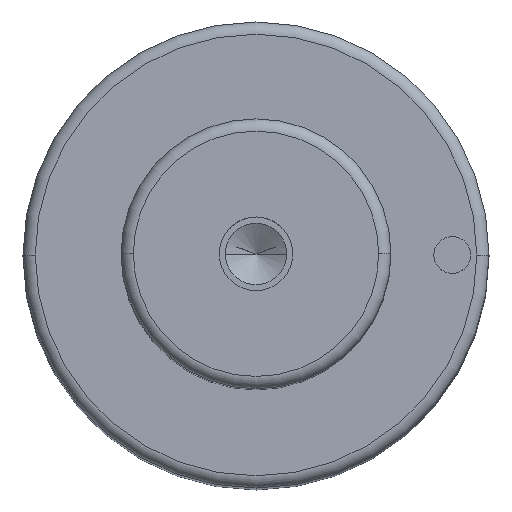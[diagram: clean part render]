
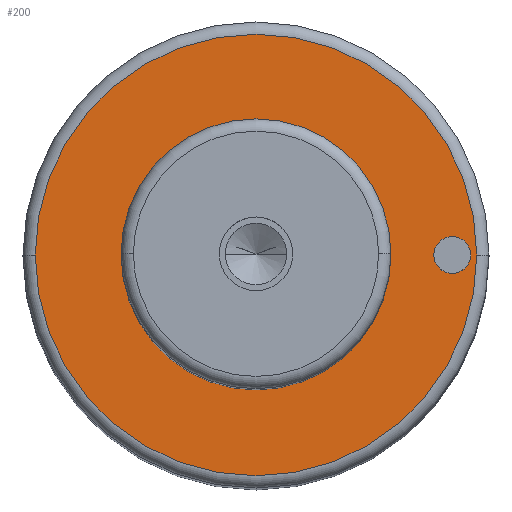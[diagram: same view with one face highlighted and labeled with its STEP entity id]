
A CAD part, top view. The second image highlights one B-rep face of the part: STEP entity #200.
In plain terms, the highlighted planar face has unit normal (0, 0, 1).
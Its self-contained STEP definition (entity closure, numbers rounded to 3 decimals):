
#99=PLANE('',#596);
#107=FACE_BOUND('',#265,.T.);
#108=FACE_BOUND('',#266,.T.);
#109=FACE_BOUND('',#267,.T.);
#200=ADVANCED_FACE('',(#107,#108,#109),#99,.T.);
#265=EDGE_LOOP('',(#359,#360));
#266=EDGE_LOOP('',(#361,#362));
#267=EDGE_LOOP('',(#363,#364));
#359=ORIENTED_EDGE('',*,*,#460,.F.);
#360=ORIENTED_EDGE('',*,*,#461,.F.);
#361=ORIENTED_EDGE('',*,*,#485,.F.);
#362=ORIENTED_EDGE('',*,*,#486,.F.);
#363=ORIENTED_EDGE('',*,*,#456,.T.);
#364=ORIENTED_EDGE('',*,*,#454,.T.);
#411=VERTEX_POINT('',#808);
#412=VERTEX_POINT('',#810);
#413=VERTEX_POINT('',#816);
#416=VERTEX_POINT('',#821);
#430=VERTEX_POINT('',#875);
#431=VERTEX_POINT('',#876);
#454=EDGE_CURVE('',#412,#411,#513,.T.);
#456=EDGE_CURVE('',#411,#412,#514,.T.);
#460=EDGE_CURVE('',#416,#413,#518,.T.);
#461=EDGE_CURVE('',#413,#416,#519,.T.);
#485=EDGE_CURVE('',#430,#431,#533,.T.);
#486=EDGE_CURVE('',#431,#430,#534,.T.);
#513=CIRCLE('',#558,11.);
#514=CIRCLE('',#560,11.);
#518=CIRCLE('',#565,18.);
#519=CIRCLE('',#567,18.);
#533=CIRCLE('',#594,1.5);
#534=CIRCLE('',#595,1.5);
#558=AXIS2_PLACEMENT_3D('',#809,#647,#648);
#560=AXIS2_PLACEMENT_3D('',#813,#652,#653);
#565=AXIS2_PLACEMENT_3D('',#822,#662,#663);
#567=AXIS2_PLACEMENT_3D('',#824,#666,#667);
#594=AXIS2_PLACEMENT_3D('',#874,#730,#731);
#595=AXIS2_PLACEMENT_3D('',#877,#732,#733);
#596=AXIS2_PLACEMENT_3D('',#878,#734,#735);
#647=DIRECTION('',(0.,0.,-1.));
#648=DIRECTION('',(0.,1.,0.));
#652=DIRECTION('',(0.,0.,-1.));
#653=DIRECTION('',(0.,-1.,0.));
#662=DIRECTION('',(0.,0.,-1.));
#663=DIRECTION('',(0.,1.,0.));
#666=DIRECTION('',(0.,0.,-1.));
#667=DIRECTION('',(0.,-1.,0.));
#730=DIRECTION('',(0.,0.,1.));
#731=DIRECTION('',(0.,1.,0.));
#732=DIRECTION('',(0.,0.,1.));
#733=DIRECTION('',(0.,-1.,0.));
#734=DIRECTION('',(0.,0.,1.));
#735=DIRECTION('',(0.,-1.,0.));
#808=CARTESIAN_POINT('',(-11.,0.,93.));
#809=CARTESIAN_POINT('',(0.,0.,93.));
#810=CARTESIAN_POINT('',(11.,0.,93.));
#813=CARTESIAN_POINT('',(0.,0.,93.));
#816=CARTESIAN_POINT('',(-18.,0.,93.));
#821=CARTESIAN_POINT('',(18.,0.,93.));
#822=CARTESIAN_POINT('',(0.,0.,93.));
#824=CARTESIAN_POINT('',(0.,0.,93.));
#874=CARTESIAN_POINT('',(16.,0.,93.));
#875=CARTESIAN_POINT('',(14.5,0.,93.));
#876=CARTESIAN_POINT('',(17.5,0.,93.));
#877=CARTESIAN_POINT('',(16.,0.,93.));
#878=CARTESIAN_POINT('',(0.,0.,93.));
